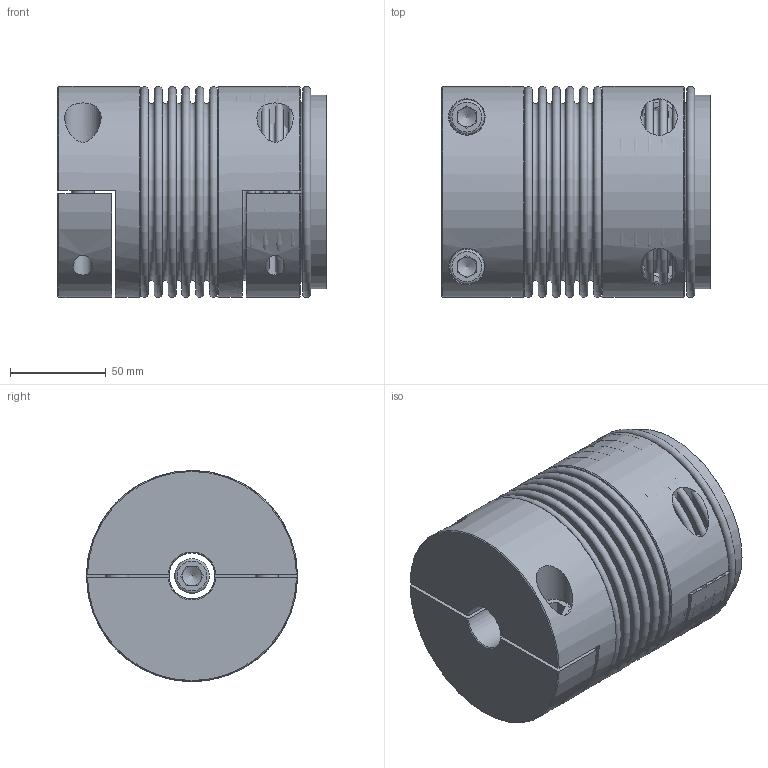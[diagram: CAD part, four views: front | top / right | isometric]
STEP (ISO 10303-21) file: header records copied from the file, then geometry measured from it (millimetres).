
FILE_DESCRIPTION( ( 'Unknown' ), '1' );
FILE_NAME( 'C:/Dokumente und Einstellungen/SKarpstein/Desktop/hp kbk/KB4H-300-125.stp', 'Unknown', ( 'Unknown' ), ( 'Unknown' ), 'XStep 1.0', 'Unknown', ' ' );
FILE_SCHEMA( ( 'automotive_design' ) );
Length unit declared in the file: millimetre
Products named in the file (5): Assem1; KN4H-300; Socket Head Cap Screw_DIN_DIN 912 M12 x 40 --- 40N_0; BL300_Standard_0
Bounding box: 139.76 x 110 x 110 mm (x, y, z)
Volume: 1141949.8 mm3; surface area: 351872.9 mm2
Topology: 13 solids, 13 shells, 287 faces, 573 edges, 368 vertices
Faces by surface type: plane 160, torus 54, cylinder 48, cone 25
Full cylindrical faces by diameter (mm): 10.106 x6, 12 x5, 12.5 x6, 18 x5, 19 x6, 24 x3, 99.8 x4, 101 x4, 110 x3
Entity records: 3150 total; most frequent: CARTESIAN_POINT 734, DIRECTION 434, ORIENTED_EDGE 280, AXIS2_PLACEMENT_3D 197, EDGE_LOOP 178, EDGE_CURVE 140, FACE_OUTER_BOUND 137, VERTEX_POINT 117
